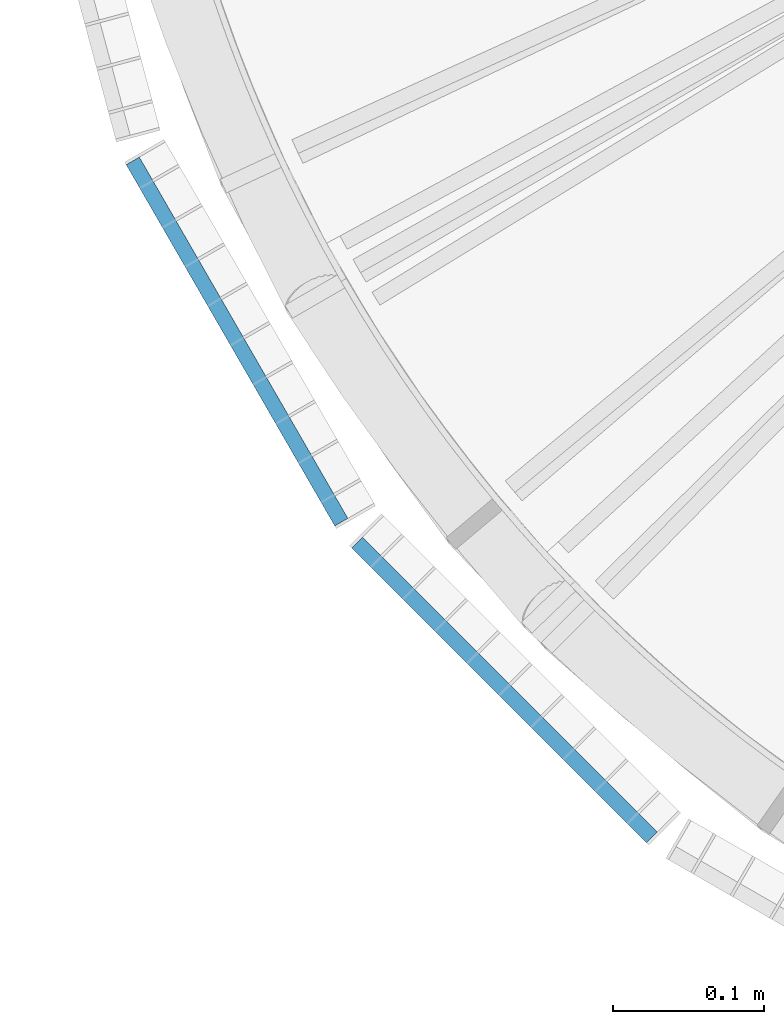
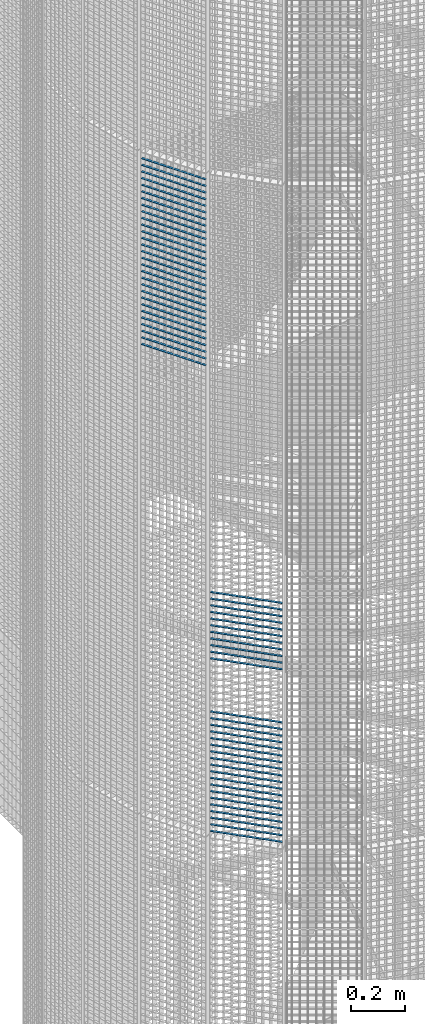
# One storey, part 119 of 1148: 59 beams, 2 elements without a shape of their own.
"""IFC2X3 building model written with IfcOpenShell, lengths in millimetres."""

from ifc_helpers import new_model, si_unit, frame, origin_with_axes, origin_2d_with_axis, place, context, subcontext, project, spatial, rectangle, extrude, material, type_object, element, aggregate, save


model = new_model("IFC2X3")

# Units and contexts
model_context = context("Model", 3, precision=1e-05, world=origin_with_axes())
body_context = subcontext(model_context, "Body", "Model", "MODEL_VIEW")
ifc_project = project(units=[si_unit("LENGTHUNIT", "METRE", prefix="MILLI"), si_unit("AREAUNIT", "SQUARE_METRE"), si_unit("VOLUMEUNIT", "CUBIC_METRE"), si_unit("MASSUNIT", "GRAM", prefix="KILO"), si_unit("TIMEUNIT", "SECOND"), si_unit("PLANEANGLEUNIT", "RADIAN"), si_unit("SOLIDANGLEUNIT", "STERADIAN"), si_unit("THERMODYNAMICTEMPERATUREUNIT", "DEGREE_CELSIUS"), si_unit("LUMINOUSINTENSITYUNIT", "LUMEN")], contexts=[model_context])

# Site, building, storey
site_placement = place(None, origin_with_axes())
site = spatial("IfcSite", under=ifc_project, at=site_placement, Name="Undefined", CompositionType="ELEMENT")
building_placement = place(site_placement, origin_with_axes())
building = spatial("IfcBuilding", under=site, at=building_placement, Name="Undefined", CompositionType="ELEMENT")
storey_placement = place(building_placement, origin_with_axes())
storey = spatial("IfcBuildingStorey", under=building, at=storey_placement, Name="Undefined", CompositionType="ELEMENT", Elevation=0.0)

# Assembly, beams
assembly_1_placement = place(storey_placement, origin_with_axes())
assembly_1 = element("IfcElementAssembly", 1, at=assembly_1_placement, inside=storey, Name="BORDURE", AssemblyPlace="NOTDEFINED", PredefinedType="NOTDEFINED")
ifc_material = material(Name="STEEL/S235JR")
beam_type = type_object("IfcBeamType", Name="PL2*10", PredefinedType="NOTDEFINED")
beam_1_placement = place(assembly_1_placement, frame((-884.927168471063, -689.771348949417, 6810.0), z_axis=(-0.70710678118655, -0.707106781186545, 0.0), x_axis=(0.707106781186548, -0.707106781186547, 0.0)))
beam_1 = element("IfcBeam", 2, at=beam_1_placement, type_object=beam_type, material=ifc_material, Name="ENTRETOISE", context=body_context, shape_type="SweptSolid", body=[
    extrude(rectangle(XDim=2.0, YDim=10.0, at=origin_2d_with_axis()), frame((275.999999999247, 9.09494701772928e-13, 1.53210777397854e-14), z_axis=(-1.0, 0.0, 0.0), x_axis=(0.0, -1.0, 0.0)), (0.0, 0.0, 1.0), 276.0),
])
beam_2_placement = place(assembly_1_placement, frame((-884.927168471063, -689.771348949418, 6570.0), z_axis=(-0.70710678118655, -0.707106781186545, 0.0), x_axis=(0.707106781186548, -0.707106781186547, 0.0)))
beam_2 = element("IfcBeam", 3, at=beam_2_placement, type_object=beam_type, material=ifc_material, Name="ENTRETOISE", context=body_context, shape_type="SweptSolid", body=[
    extrude(rectangle(XDim=2.0, YDim=10.0, at=origin_2d_with_axis()), frame((275.999999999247, 9.09494701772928e-13, 1.53210777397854e-14), z_axis=(-1.0, 0.0, 0.0), x_axis=(0.0, -1.0, 0.0)), (0.0, 0.0, 1.0), 276.0),
])
beam_3_placement = place(assembly_1_placement, frame((-884.927168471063, -689.771348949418, 6540.0), z_axis=(-0.70710678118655, -0.707106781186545, 0.0), x_axis=(0.707106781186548, -0.707106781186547, 0.0)))
beam_3 = element("IfcBeam", 4, at=beam_3_placement, type_object=beam_type, material=ifc_material, Name="ENTRETOISE", context=body_context, shape_type="SweptSolid", body=[
    extrude(rectangle(XDim=2.0, YDim=10.0, at=origin_2d_with_axis()), frame((275.999999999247, 9.09494701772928e-13, 1.53210777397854e-14), z_axis=(-1.0, 0.0, 0.0), x_axis=(0.0, -1.0, 0.0)), (0.0, 0.0, 1.0), 276.0),
])
beam_4_placement = place(assembly_1_placement, frame((-884.927168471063, -689.771348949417, 6840.0), z_axis=(-0.70710678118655, -0.707106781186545, 0.0), x_axis=(0.707106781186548, -0.707106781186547, 0.0)))
beam_4 = element("IfcBeam", 5, at=beam_4_placement, type_object=beam_type, material=ifc_material, Name="ENTRETOISE", context=body_context, shape_type="SweptSolid", body=[
    extrude(rectangle(XDim=2.0, YDim=10.0, at=origin_2d_with_axis()), frame((275.999999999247, 9.09494701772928e-13, 1.53210777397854e-14), z_axis=(-1.0, 0.0, 0.0), x_axis=(0.0, -1.0, 0.0)), (0.0, 0.0, 1.0), 276.0),
])
beam_5_placement = place(assembly_1_placement, frame((-884.927168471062, -689.771348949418, 6510.0), z_axis=(-0.70710678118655, -0.707106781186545, 0.0), x_axis=(0.707106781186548, -0.707106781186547, 0.0)))
beam_5 = element("IfcBeam", 6, at=beam_5_placement, type_object=beam_type, material=ifc_material, Name="ENTRETOISE", context=body_context, shape_type="SweptSolid", body=[
    extrude(rectangle(XDim=2.0, YDim=10.0, at=origin_2d_with_axis()), frame((275.999999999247, 9.09494701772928e-13, 1.53210777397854e-14), z_axis=(-1.0, 0.0, 0.0), x_axis=(0.0, -1.0, 0.0)), (0.0, 0.0, 1.0), 276.0),
])
beam_6_placement = place(assembly_1_placement, frame((-884.927168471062, -689.771348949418, 6480.0), z_axis=(-0.70710678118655, -0.707106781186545, 0.0), x_axis=(0.707106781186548, -0.707106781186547, 0.0)))
beam_6 = element("IfcBeam", 7, at=beam_6_placement, type_object=beam_type, material=ifc_material, Name="ENTRETOISE", context=body_context, shape_type="SweptSolid", body=[
    extrude(rectangle(XDim=2.0, YDim=10.0, at=origin_2d_with_axis()), frame((275.999999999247, 9.09494701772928e-13, 1.53210777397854e-14), z_axis=(-1.0, 0.0, 0.0), x_axis=(0.0, -1.0, 0.0)), (0.0, 0.0, 1.0), 276.0),
])
beam_7_placement = place(assembly_1_placement, frame((-884.927168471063, -689.771348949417, 6870.0), z_axis=(-0.70710678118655, -0.707106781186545, 0.0), x_axis=(0.707106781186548, -0.707106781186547, 0.0)))
beam_7 = element("IfcBeam", 8, at=beam_7_placement, type_object=beam_type, material=ifc_material, Name="ENTRETOISE", context=body_context, shape_type="SweptSolid", body=[
    extrude(rectangle(XDim=2.0, YDim=10.0, at=origin_2d_with_axis()), frame((275.999999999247, 9.09494701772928e-13, 1.53210777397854e-14), z_axis=(-1.0, 0.0, 0.0), x_axis=(0.0, -1.0, 0.0)), (0.0, 0.0, 1.0), 276.0),
])
beam_8_placement = place(assembly_1_placement, frame((-884.927168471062, -689.771348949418, 6450.0), z_axis=(-0.70710678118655, -0.707106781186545, 0.0), x_axis=(0.707106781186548, -0.707106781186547, 0.0)))
beam_8 = element("IfcBeam", 9, at=beam_8_placement, type_object=beam_type, material=ifc_material, Name="ENTRETOISE", context=body_context, shape_type="SweptSolid", body=[
    extrude(rectangle(XDim=2.0, YDim=10.0, at=origin_2d_with_axis()), frame((275.999999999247, 9.09494701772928e-13, 1.53210777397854e-14), z_axis=(-1.0, 0.0, 0.0), x_axis=(0.0, -1.0, 0.0)), (0.0, 0.0, 1.0), 276.0),
])
beam_9_placement = place(assembly_1_placement, frame((-884.927168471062, -689.771348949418, 6420.0), z_axis=(-0.70710678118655, -0.707106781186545, 0.0), x_axis=(0.707106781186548, -0.707106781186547, 0.0)))
beam_9 = element("IfcBeam", 10, at=beam_9_placement, type_object=beam_type, material=ifc_material, Name="ENTRETOISE", context=body_context, shape_type="SweptSolid", body=[
    extrude(rectangle(XDim=2.0, YDim=10.0, at=origin_2d_with_axis()), frame((275.999999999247, 9.09494701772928e-13, 1.53210777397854e-14), z_axis=(-1.0, 0.0, 0.0), x_axis=(0.0, -1.0, 0.0)), (0.0, 0.0, 1.0), 276.0),
])
beam_10_placement = place(assembly_1_placement, frame((-884.927168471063, -689.771348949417, 6900.0), z_axis=(-0.70710678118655, -0.707106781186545, 0.0), x_axis=(0.707106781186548, -0.707106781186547, 0.0)))
beam_10 = element("IfcBeam", 11, at=beam_10_placement, type_object=beam_type, material=ifc_material, Name="ENTRETOISE", context=body_context, shape_type="SweptSolid", body=[
    extrude(rectangle(XDim=2.0, YDim=10.0, at=origin_2d_with_axis()), frame((275.999999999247, 9.09494701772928e-13, 1.53210777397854e-14), z_axis=(-1.0, 0.0, 0.0), x_axis=(0.0, -1.0, 0.0)), (0.0, 0.0, 1.0), 276.0),
])
beam_11_placement = place(assembly_1_placement, frame((-884.927168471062, -689.771348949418, 6390.0), z_axis=(-0.70710678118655, -0.707106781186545, 0.0), x_axis=(0.707106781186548, -0.707106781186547, 0.0)))
beam_11 = element("IfcBeam", 12, at=beam_11_placement, type_object=beam_type, material=ifc_material, Name="ENTRETOISE", context=body_context, shape_type="SweptSolid", body=[
    extrude(rectangle(XDim=2.0, YDim=10.0, at=origin_2d_with_axis()), frame((275.999999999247, 9.09494701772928e-13, 1.53210777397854e-14), z_axis=(-1.0, 0.0, 0.0), x_axis=(0.0, -1.0, 0.0)), (0.0, 0.0, 1.0), 276.0),
])
beam_12_placement = place(assembly_1_placement, frame((-884.927168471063, -689.771348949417, 6930.0), z_axis=(-0.70710678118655, -0.707106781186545, 0.0), x_axis=(0.707106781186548, -0.707106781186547, 0.0)))
beam_12 = element("IfcBeam", 13, at=beam_12_placement, type_object=beam_type, material=ifc_material, Name="ENTRETOISE", context=body_context, shape_type="SweptSolid", body=[
    extrude(rectangle(XDim=2.0, YDim=10.0, at=origin_2d_with_axis()), frame((275.999999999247, 9.09494701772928e-13, 1.53210777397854e-14), z_axis=(-1.0, 0.0, 0.0), x_axis=(0.0, -1.0, 0.0)), (0.0, 0.0, 1.0), 276.0),
])
beam_13_placement = place(assembly_1_placement, frame((-884.927168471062, -689.771348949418, 6360.0), z_axis=(-0.70710678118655, -0.707106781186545, 0.0), x_axis=(0.707106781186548, -0.707106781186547, 0.0)))
beam_13 = element("IfcBeam", 14, at=beam_13_placement, type_object=beam_type, material=ifc_material, Name="ENTRETOISE", context=body_context, shape_type="SweptSolid", body=[
    extrude(rectangle(XDim=2.0, YDim=10.0, at=origin_2d_with_axis()), frame((275.999999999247, 9.09494701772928e-13, 1.53210777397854e-14), z_axis=(-1.0, 0.0, 0.0), x_axis=(0.0, -1.0, 0.0)), (0.0, 0.0, 1.0), 276.0),
])
beam_14_placement = place(assembly_1_placement, frame((-884.927168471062, -689.771348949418, 6330.0), z_axis=(-0.70710678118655, -0.707106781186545, 0.0), x_axis=(0.707106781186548, -0.707106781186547, 0.0)))
beam_14 = element("IfcBeam", 15, at=beam_14_placement, type_object=beam_type, material=ifc_material, Name="ENTRETOISE", context=body_context, shape_type="SweptSolid", body=[
    extrude(rectangle(XDim=2.0, YDim=10.0, at=origin_2d_with_axis()), frame((275.999999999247, 9.09494701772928e-13, 1.53210777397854e-14), z_axis=(-1.0, 0.0, 0.0), x_axis=(0.0, -1.0, 0.0)), (0.0, 0.0, 1.0), 276.0),
])
beam_15_placement = place(assembly_1_placement, frame((-884.927168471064, -689.771348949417, 6960.0), z_axis=(-0.70710678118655, -0.707106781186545, 0.0), x_axis=(0.707106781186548, -0.707106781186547, 0.0)))
beam_15 = element("IfcBeam", 16, at=beam_15_placement, type_object=beam_type, material=ifc_material, Name="ENTRETOISE", context=body_context, shape_type="SweptSolid", body=[
    extrude(rectangle(XDim=2.0, YDim=10.0, at=origin_2d_with_axis()), frame((275.999999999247, 9.09494701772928e-13, 1.53210777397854e-14), z_axis=(-1.0, 0.0, 0.0), x_axis=(0.0, -1.0, 0.0)), (0.0, 0.0, 1.0), 276.0),
])
beam_16_placement = place(assembly_1_placement, frame((-884.927168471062, -689.771348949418, 6300.0), z_axis=(-0.70710678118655, -0.707106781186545, 0.0), x_axis=(0.707106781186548, -0.707106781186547, 0.0)))
beam_16 = element("IfcBeam", 17, at=beam_16_placement, type_object=beam_type, material=ifc_material, Name="ENTRETOISE", context=body_context, shape_type="SweptSolid", body=[
    extrude(rectangle(XDim=2.0, YDim=10.0, at=origin_2d_with_axis()), frame((275.999999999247, 9.09494701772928e-13, 1.53210777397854e-14), z_axis=(-1.0, 0.0, 0.0), x_axis=(0.0, -1.0, 0.0)), (0.0, 0.0, 1.0), 276.0),
])
beam_17_placement = place(assembly_1_placement, frame((-884.927168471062, -689.771348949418, 6270.0), z_axis=(-0.70710678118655, -0.707106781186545, 0.0), x_axis=(0.707106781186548, -0.707106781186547, 0.0)))
beam_17 = element("IfcBeam", 18, at=beam_17_placement, type_object=beam_type, material=ifc_material, Name="ENTRETOISE", context=body_context, shape_type="SweptSolid", body=[
    extrude(rectangle(XDim=2.0, YDim=10.0, at=origin_2d_with_axis()), frame((275.999999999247, 9.09494701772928e-13, 1.53210777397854e-14), z_axis=(-1.0, 0.0, 0.0), x_axis=(0.0, -1.0, 0.0)), (0.0, 0.0, 1.0), 276.0),
])
beam_18_placement = place(assembly_1_placement, frame((-884.927168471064, -689.771348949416, 6990.0), z_axis=(-0.70710678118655, -0.707106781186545, 0.0), x_axis=(0.707106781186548, -0.707106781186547, 0.0)))
beam_18 = element("IfcBeam", 19, at=beam_18_placement, type_object=beam_type, material=ifc_material, Name="ENTRETOISE", context=body_context, shape_type="SweptSolid", body=[
    extrude(rectangle(XDim=2.0, YDim=10.0, at=origin_2d_with_axis()), frame((275.999999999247, 9.09494701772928e-13, 1.53210777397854e-14), z_axis=(-1.0, 0.0, 0.0), x_axis=(0.0, -1.0, 0.0)), (0.0, 0.0, 1.0), 276.0),
])
beam_19_placement = place(assembly_1_placement, frame((-884.927168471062, -689.771348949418, 6240.0), z_axis=(-0.70710678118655, -0.707106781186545, 0.0), x_axis=(0.707106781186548, -0.707106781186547, 0.0)))
beam_19 = element("IfcBeam", 20, at=beam_19_placement, type_object=beam_type, material=ifc_material, Name="ENTRETOISE", context=body_context, shape_type="SweptSolid", body=[
    extrude(rectangle(XDim=2.0, YDim=10.0, at=origin_2d_with_axis()), frame((275.999999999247, 9.09494701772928e-13, 1.53210777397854e-14), z_axis=(-1.0, 0.0, 0.0), x_axis=(0.0, -1.0, 0.0)), (0.0, 0.0, 1.0), 276.0),
])
beam_20_placement = place(assembly_1_placement, frame((-884.927168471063, -689.771348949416, 7020.0), z_axis=(-0.70710678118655, -0.707106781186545, 0.0), x_axis=(0.707106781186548, -0.707106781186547, 0.0)))
beam_20 = element("IfcBeam", 21, at=beam_20_placement, type_object=beam_type, material=ifc_material, Name="ENTRETOISE", context=body_context, shape_type="SweptSolid", body=[
    extrude(rectangle(XDim=2.0, YDim=10.0, at=origin_2d_with_axis()), frame((275.999999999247, 9.09494701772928e-13, 1.53210777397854e-14), z_axis=(-1.0, 0.0, 0.0), x_axis=(0.0, -1.0, 0.0)), (0.0, 0.0, 1.0), 276.0),
])
beam_21_placement = place(assembly_1_placement, frame((-884.927168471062, -689.771348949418, 6210.0), z_axis=(-0.70710678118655, -0.707106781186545, 0.0), x_axis=(0.707106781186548, -0.707106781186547, 0.0)))
beam_21 = element("IfcBeam", 22, at=beam_21_placement, type_object=beam_type, material=ifc_material, Name="ENTRETOISE", context=body_context, shape_type="SweptSolid", body=[
    extrude(rectangle(XDim=2.0, YDim=10.0, at=origin_2d_with_axis()), frame((275.999999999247, 9.09494701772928e-13, 1.53210777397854e-14), z_axis=(-1.0, 0.0, 0.0), x_axis=(0.0, -1.0, 0.0)), (0.0, 0.0, 1.0), 276.0),
])
beam_22_placement = place(assembly_1_placement, frame((-884.927168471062, -689.771348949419, 6180.0), z_axis=(-0.70710678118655, -0.707106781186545, 0.0), x_axis=(0.707106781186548, -0.707106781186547, 0.0)))
beam_22 = element("IfcBeam", 23, at=beam_22_placement, type_object=beam_type, material=ifc_material, Name="ENTRETOISE", context=body_context, shape_type="SweptSolid", body=[
    extrude(rectangle(XDim=2.0, YDim=10.0, at=origin_2d_with_axis()), frame((275.999999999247, 9.09494701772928e-13, 1.53210777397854e-14), z_axis=(-1.0, 0.0, 0.0), x_axis=(0.0, -1.0, 0.0)), (0.0, 0.0, 1.0), 276.0),
])
beam_23_placement = place(assembly_1_placement, frame((-884.927168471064, -689.771348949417, 7050.0), z_axis=(-0.70710678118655, -0.707106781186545, 0.0), x_axis=(0.707106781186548, -0.707106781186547, 0.0)))
beam_23 = element("IfcBeam", 24, at=beam_23_placement, type_object=beam_type, material=ifc_material, Name="ENTRETOISE", context=body_context, shape_type="SweptSolid", body=[
    extrude(rectangle(XDim=2.0, YDim=10.0, at=origin_2d_with_axis()), frame((275.999999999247, 9.09494701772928e-13, 1.53210777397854e-14), z_axis=(-1.0, 0.0, 0.0), x_axis=(0.0, -1.0, 0.0)), (0.0, 0.0, 1.0), 276.0),
])
beam_24_placement = place(assembly_1_placement, frame((-884.927168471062, -689.771348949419, 6150.0), z_axis=(-0.70710678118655, -0.707106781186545, 0.0), x_axis=(0.707106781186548, -0.707106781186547, 0.0)))
beam_24 = element("IfcBeam", 25, at=beam_24_placement, type_object=beam_type, material=ifc_material, Name="ENTRETOISE", context=body_context, shape_type="SweptSolid", body=[
    extrude(rectangle(XDim=2.0, YDim=10.0, at=origin_2d_with_axis()), frame((275.999999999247, 9.09494701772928e-13, 1.53210777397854e-14), z_axis=(-1.0, 0.0, 0.0), x_axis=(0.0, -1.0, 0.0)), (0.0, 0.0, 1.0), 276.0),
])
beam_25_placement = place(assembly_1_placement, frame((-884.927168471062, -689.771348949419, 6120.0), z_axis=(-0.70710678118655, -0.707106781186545, 0.0), x_axis=(0.707106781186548, -0.707106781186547, 0.0)))
beam_25 = element("IfcBeam", 26, at=beam_25_placement, type_object=beam_type, material=ifc_material, Name="ENTRETOISE", context=body_context, shape_type="SweptSolid", body=[
    extrude(rectangle(XDim=2.0, YDim=10.0, at=origin_2d_with_axis()), frame((275.999999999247, 9.09494701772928e-13, 1.53210777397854e-14), z_axis=(-1.0, 0.0, 0.0), x_axis=(0.0, -1.0, 0.0)), (0.0, 0.0, 1.0), 276.0),
])
beam_26_placement = place(assembly_1_placement, frame((-884.927168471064, -689.771348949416, 7080.0), z_axis=(-0.70710678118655, -0.707106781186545, 0.0), x_axis=(0.707106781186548, -0.707106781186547, 0.0)))
beam_26 = element("IfcBeam", 27, at=beam_26_placement, type_object=beam_type, material=ifc_material, Name="ENTRETOISE", context=body_context, shape_type="SweptSolid", body=[
    extrude(rectangle(XDim=2.0, YDim=10.0, at=origin_2d_with_axis()), frame((275.999999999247, 9.09494701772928e-13, 1.53210777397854e-14), z_axis=(-1.0, 0.0, 0.0), x_axis=(0.0, -1.0, 0.0)), (0.0, 0.0, 1.0), 276.0),
])
beam_27_placement = place(assembly_1_placement, frame((-884.927168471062, -689.771348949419, 6090.0), z_axis=(-0.70710678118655, -0.707106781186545, 0.0), x_axis=(0.707106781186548, -0.707106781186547, 0.0)))
beam_27 = element("IfcBeam", 28, at=beam_27_placement, type_object=beam_type, material=ifc_material, Name="ENTRETOISE", context=body_context, shape_type="SweptSolid", body=[
    extrude(rectangle(XDim=2.0, YDim=10.0, at=origin_2d_with_axis()), frame((275.999999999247, 9.09494701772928e-13, 1.53210777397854e-14), z_axis=(-1.0, 0.0, 0.0), x_axis=(0.0, -1.0, 0.0)), (0.0, 0.0, 1.0), 276.0),
])
beam_28_placement = place(assembly_1_placement, frame((-884.927168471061, -689.771348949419, 6060.0), z_axis=(-0.70710678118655, -0.707106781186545, 0.0), x_axis=(0.707106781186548, -0.707106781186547, 0.0)))
beam_28 = element("IfcBeam", 29, at=beam_28_placement, type_object=beam_type, material=ifc_material, Name="ENTRETOISE", context=body_context, shape_type="SweptSolid", body=[
    extrude(rectangle(XDim=2.0, YDim=10.0, at=origin_2d_with_axis()), frame((275.999999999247, 9.09494701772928e-13, 1.53210777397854e-14), z_axis=(-1.0, 0.0, 0.0), x_axis=(0.0, -1.0, 0.0)), (0.0, 0.0, 1.0), 276.0),
])
beam_29_placement = place(assembly_1_placement, frame((-884.927168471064, -689.771348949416, 7110.0), z_axis=(-0.70710678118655, -0.707106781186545, 0.0), x_axis=(0.707106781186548, -0.707106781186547, 0.0)))
beam_29 = element("IfcBeam", 30, at=beam_29_placement, type_object=beam_type, material=ifc_material, Name="ENTRETOISE", context=body_context, shape_type="SweptSolid", body=[
    extrude(rectangle(XDim=2.0, YDim=10.0, at=origin_2d_with_axis()), frame((275.999999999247, 9.09494701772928e-13, 1.53210777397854e-14), z_axis=(-1.0, 0.0, 0.0), x_axis=(0.0, -1.0, 0.0)), (0.0, 0.0, 1.0), 276.0),
])
beam_30_placement = place(assembly_1_placement, frame((-884.92716847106, -689.771348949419, 6030.0), z_axis=(-0.70710678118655, -0.707106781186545, 0.0), x_axis=(0.707106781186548, -0.707106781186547, 0.0)))
beam_30 = element("IfcBeam", 31, at=beam_30_placement, type_object=beam_type, material=ifc_material, Name="ENTRETOISE", context=body_context, shape_type="SweptSolid", body=[
    extrude(rectangle(XDim=2.0, YDim=10.0, at=origin_2d_with_axis()), frame((275.999999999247, 9.09494701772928e-13, 1.53210777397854e-14), z_axis=(-1.0, 0.0, 0.0), x_axis=(0.0, -1.0, 0.0)), (0.0, 0.0, 1.0), 276.0),
])
aggregate(assembly_1, [beam_1, beam_2, beam_3, beam_4, beam_5, beam_6, beam_7, beam_8, beam_9, beam_10, beam_11, beam_12, beam_13, beam_14, beam_15, beam_16, beam_17, beam_18, beam_19, beam_20, beam_21, beam_22, beam_23, beam_24, beam_25, beam_26, beam_27, beam_28, beam_29, beam_30])

assembly_2_placement = place(storey_placement, origin_with_axes())
assembly_2 = element("IfcElementAssembly", 32, at=assembly_2_placement, inside=storey, Name="BORDURE", AssemblyPlace="NOTDEFINED", PredefinedType="NOTDEFINED")
beam_31_placement = place(assembly_2_placement, frame((-1033.29996828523, -437.231955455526, 8970.0), z_axis=(-0.866025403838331, -0.499999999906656, 0.0), x_axis=(0.499999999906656, -0.866025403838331, 0.0)))
beam_31 = element("IfcBeam", 33, at=beam_31_placement, type_object=beam_type, material=ifc_material, Name="ENTRETOISE", context=body_context, shape_type="SweptSolid", body=[
    extrude(rectangle(XDim=2.0, YDim=10.0, at=origin_2d_with_axis()), frame((275.999999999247, 9.09494701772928e-13, 1.53210777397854e-14), z_axis=(-1.0, 0.0, 0.0), x_axis=(0.0, -1.0, 0.0)), (0.0, 0.0, 1.0), 276.0),
])
beam_32_placement = place(assembly_2_placement, frame((-1033.29996828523, -437.231955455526, 8940.0), z_axis=(-0.866025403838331, -0.499999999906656, 0.0), x_axis=(0.499999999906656, -0.866025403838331, 0.0)))
beam_32 = element("IfcBeam", 34, at=beam_32_placement, type_object=beam_type, material=ifc_material, Name="ENTRETOISE", context=body_context, shape_type="SweptSolid", body=[
    extrude(rectangle(XDim=2.0, YDim=10.0, at=origin_2d_with_axis()), frame((275.999999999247, 9.09494701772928e-13, 1.53210777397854e-14), z_axis=(-1.0, 0.0, 0.0), x_axis=(0.0, -1.0, 0.0)), (0.0, 0.0, 1.0), 276.0),
])
beam_33_placement = place(assembly_2_placement, frame((-1033.29996828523, -437.231955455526, 8910.0), z_axis=(-0.866025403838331, -0.499999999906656, 0.0), x_axis=(0.499999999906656, -0.866025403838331, 0.0)))
beam_33 = element("IfcBeam", 35, at=beam_33_placement, type_object=beam_type, material=ifc_material, Name="ENTRETOISE", context=body_context, shape_type="SweptSolid", body=[
    extrude(rectangle(XDim=2.0, YDim=10.0, at=origin_2d_with_axis()), frame((275.999999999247, 9.09494701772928e-13, 1.53210777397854e-14), z_axis=(-1.0, 0.0, 0.0), x_axis=(0.0, -1.0, 0.0)), (0.0, 0.0, 1.0), 276.0),
])
beam_34_placement = place(assembly_2_placement, frame((-1033.29996828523, -437.231955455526, 8880.0), z_axis=(-0.866025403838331, -0.499999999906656, 0.0), x_axis=(0.499999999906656, -0.866025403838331, 0.0)))
beam_34 = element("IfcBeam", 36, at=beam_34_placement, type_object=beam_type, material=ifc_material, Name="ENTRETOISE", context=body_context, shape_type="SweptSolid", body=[
    extrude(rectangle(XDim=2.0, YDim=10.0, at=origin_2d_with_axis()), frame((275.999999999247, 9.09494701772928e-13, 1.53210777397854e-14), z_axis=(-1.0, 0.0, 0.0), x_axis=(0.0, -1.0, 0.0)), (0.0, 0.0, 1.0), 276.0),
])
beam_35_placement = place(assembly_2_placement, frame((-1033.29996828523, -437.231955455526, 8850.0), z_axis=(-0.866025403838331, -0.499999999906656, 0.0), x_axis=(0.499999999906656, -0.866025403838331, 0.0)))
beam_35 = element("IfcBeam", 37, at=beam_35_placement, type_object=beam_type, material=ifc_material, Name="ENTRETOISE", context=body_context, shape_type="SweptSolid", body=[
    extrude(rectangle(XDim=2.0, YDim=10.0, at=origin_2d_with_axis()), frame((275.999999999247, 9.09494701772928e-13, 1.53210777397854e-14), z_axis=(-1.0, 0.0, 0.0), x_axis=(0.0, -1.0, 0.0)), (0.0, 0.0, 1.0), 276.0),
])
beam_36_placement = place(assembly_2_placement, frame((-1033.29996828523, -437.231955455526, 8820.0), z_axis=(-0.866025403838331, -0.499999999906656, 0.0), x_axis=(0.499999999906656, -0.866025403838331, 0.0)))
beam_36 = element("IfcBeam", 38, at=beam_36_placement, type_object=beam_type, material=ifc_material, Name="ENTRETOISE", context=body_context, shape_type="SweptSolid", body=[
    extrude(rectangle(XDim=2.0, YDim=10.0, at=origin_2d_with_axis()), frame((275.999999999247, 9.09494701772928e-13, 1.53210777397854e-14), z_axis=(-1.0, 0.0, 0.0), x_axis=(0.0, -1.0, 0.0)), (0.0, 0.0, 1.0), 276.0),
])
beam_37_placement = place(assembly_2_placement, frame((-1033.29996828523, -437.231955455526, 8790.0), z_axis=(-0.866025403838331, -0.499999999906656, 0.0), x_axis=(0.499999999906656, -0.866025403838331, 0.0)))
beam_37 = element("IfcBeam", 39, at=beam_37_placement, type_object=beam_type, material=ifc_material, Name="ENTRETOISE", context=body_context, shape_type="SweptSolid", body=[
    extrude(rectangle(XDim=2.0, YDim=10.0, at=origin_2d_with_axis()), frame((275.999999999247, 9.09494701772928e-13, 1.53210777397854e-14), z_axis=(-1.0, 0.0, 0.0), x_axis=(0.0, -1.0, 0.0)), (0.0, 0.0, 1.0), 276.0),
])
beam_38_placement = place(assembly_2_placement, frame((-1033.29996828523, -437.231955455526, 8760.0), z_axis=(-0.866025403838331, -0.499999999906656, 0.0), x_axis=(0.499999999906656, -0.866025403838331, 0.0)))
beam_38 = element("IfcBeam", 40, at=beam_38_placement, type_object=beam_type, material=ifc_material, Name="ENTRETOISE", context=body_context, shape_type="SweptSolid", body=[
    extrude(rectangle(XDim=2.0, YDim=10.0, at=origin_2d_with_axis()), frame((275.999999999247, 9.09494701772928e-13, 1.53210777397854e-14), z_axis=(-1.0, 0.0, 0.0), x_axis=(0.0, -1.0, 0.0)), (0.0, 0.0, 1.0), 276.0),
])
beam_39_placement = place(assembly_2_placement, frame((-1033.29996828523, -437.231955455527, 8730.0), z_axis=(-0.866025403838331, -0.499999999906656, 0.0), x_axis=(0.499999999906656, -0.866025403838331, 0.0)))
beam_39 = element("IfcBeam", 41, at=beam_39_placement, type_object=beam_type, material=ifc_material, Name="ENTRETOISE", context=body_context, shape_type="SweptSolid", body=[
    extrude(rectangle(XDim=2.0, YDim=10.0, at=origin_2d_with_axis()), frame((275.999999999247, 9.09494701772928e-13, 1.53210777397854e-14), z_axis=(-1.0, 0.0, 0.0), x_axis=(0.0, -1.0, 0.0)), (0.0, 0.0, 1.0), 276.0),
])
beam_40_placement = place(assembly_2_placement, frame((-1033.29996828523, -437.231955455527, 8700.0), z_axis=(-0.866025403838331, -0.499999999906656, 0.0), x_axis=(0.499999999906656, -0.866025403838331, 0.0)))
beam_40 = element("IfcBeam", 42, at=beam_40_placement, type_object=beam_type, material=ifc_material, Name="ENTRETOISE", context=body_context, shape_type="SweptSolid", body=[
    extrude(rectangle(XDim=2.0, YDim=10.0, at=origin_2d_with_axis()), frame((275.999999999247, 9.09494701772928e-13, 1.53210777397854e-14), z_axis=(-1.0, 0.0, 0.0), x_axis=(0.0, -1.0, 0.0)), (0.0, 0.0, 1.0), 276.0),
])
beam_41_placement = place(assembly_2_placement, frame((-1033.29996828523, -437.231955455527, 8670.0), z_axis=(-0.866025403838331, -0.499999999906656, 0.0), x_axis=(0.499999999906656, -0.866025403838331, 0.0)))
beam_41 = element("IfcBeam", 43, at=beam_41_placement, type_object=beam_type, material=ifc_material, Name="ENTRETOISE", context=body_context, shape_type="SweptSolid", body=[
    extrude(rectangle(XDim=2.0, YDim=10.0, at=origin_2d_with_axis()), frame((275.999999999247, 9.09494701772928e-13, 1.53210777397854e-14), z_axis=(-1.0, 0.0, 0.0), x_axis=(0.0, -1.0, 0.0)), (0.0, 0.0, 1.0), 276.0),
])
beam_42_placement = place(assembly_2_placement, frame((-1033.29996828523, -437.231955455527, 8640.0), z_axis=(-0.866025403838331, -0.499999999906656, 0.0), x_axis=(0.499999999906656, -0.866025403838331, 0.0)))
beam_42 = element("IfcBeam", 44, at=beam_42_placement, type_object=beam_type, material=ifc_material, Name="ENTRETOISE", context=body_context, shape_type="SweptSolid", body=[
    extrude(rectangle(XDim=2.0, YDim=10.0, at=origin_2d_with_axis()), frame((275.999999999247, 9.09494701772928e-13, 1.53210777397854e-14), z_axis=(-1.0, 0.0, 0.0), x_axis=(0.0, -1.0, 0.0)), (0.0, 0.0, 1.0), 276.0),
])
beam_43_placement = place(assembly_2_placement, frame((-1033.29996828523, -437.231955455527, 8610.0), z_axis=(-0.866025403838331, -0.499999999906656, 0.0), x_axis=(0.499999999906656, -0.866025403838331, 0.0)))
beam_43 = element("IfcBeam", 45, at=beam_43_placement, type_object=beam_type, material=ifc_material, Name="ENTRETOISE", context=body_context, shape_type="SweptSolid", body=[
    extrude(rectangle(XDim=2.0, YDim=10.0, at=origin_2d_with_axis()), frame((275.999999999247, 9.09494701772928e-13, 1.53210777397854e-14), z_axis=(-1.0, 0.0, 0.0), x_axis=(0.0, -1.0, 0.0)), (0.0, 0.0, 1.0), 276.0),
])
beam_44_placement = place(assembly_2_placement, frame((-1033.29996828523, -437.231955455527, 8580.0), z_axis=(-0.866025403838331, -0.499999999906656, 0.0), x_axis=(0.499999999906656, -0.866025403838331, 0.0)))
beam_44 = element("IfcBeam", 46, at=beam_44_placement, type_object=beam_type, material=ifc_material, Name="ENTRETOISE", context=body_context, shape_type="SweptSolid", body=[
    extrude(rectangle(XDim=2.0, YDim=10.0, at=origin_2d_with_axis()), frame((275.999999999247, 9.09494701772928e-13, 1.53210777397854e-14), z_axis=(-1.0, 0.0, 0.0), x_axis=(0.0, -1.0, 0.0)), (0.0, 0.0, 1.0), 276.0),
])
beam_45_placement = place(assembly_2_placement, frame((-1033.29996828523, -437.231955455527, 8550.0), z_axis=(-0.866025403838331, -0.499999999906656, 0.0), x_axis=(0.499999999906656, -0.866025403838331, 0.0)))
beam_45 = element("IfcBeam", 47, at=beam_45_placement, type_object=beam_type, material=ifc_material, Name="ENTRETOISE", context=body_context, shape_type="SweptSolid", body=[
    extrude(rectangle(XDim=2.0, YDim=10.0, at=origin_2d_with_axis()), frame((275.999999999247, 9.09494701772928e-13, 1.53210777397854e-14), z_axis=(-1.0, 0.0, 0.0), x_axis=(0.0, -1.0, 0.0)), (0.0, 0.0, 1.0), 276.0),
])
beam_46_placement = place(assembly_2_placement, frame((-1033.29996828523, -437.231955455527, 8520.0), z_axis=(-0.866025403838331, -0.499999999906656, 0.0), x_axis=(0.499999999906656, -0.866025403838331, 0.0)))
beam_46 = element("IfcBeam", 48, at=beam_46_placement, type_object=beam_type, material=ifc_material, Name="ENTRETOISE", context=body_context, shape_type="SweptSolid", body=[
    extrude(rectangle(XDim=2.0, YDim=10.0, at=origin_2d_with_axis()), frame((275.999999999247, 9.09494701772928e-13, 1.53210777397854e-14), z_axis=(-1.0, 0.0, 0.0), x_axis=(0.0, -1.0, 0.0)), (0.0, 0.0, 1.0), 276.0),
])
beam_47_placement = place(assembly_2_placement, frame((-1033.29996828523, -437.231955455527, 8490.0), z_axis=(-0.866025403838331, -0.499999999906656, 0.0), x_axis=(0.499999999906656, -0.866025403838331, 0.0)))
beam_47 = element("IfcBeam", 49, at=beam_47_placement, type_object=beam_type, material=ifc_material, Name="ENTRETOISE", context=body_context, shape_type="SweptSolid", body=[
    extrude(rectangle(XDim=2.0, YDim=10.0, at=origin_2d_with_axis()), frame((275.999999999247, 9.09494701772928e-13, 1.53210777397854e-14), z_axis=(-1.0, 0.0, 0.0), x_axis=(0.0, -1.0, 0.0)), (0.0, 0.0, 1.0), 276.0),
])
beam_48_placement = place(assembly_2_placement, frame((-1033.29996828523, -437.231955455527, 8460.0), z_axis=(-0.866025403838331, -0.499999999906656, 0.0), x_axis=(0.499999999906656, -0.866025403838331, 0.0)))
beam_48 = element("IfcBeam", 50, at=beam_48_placement, type_object=beam_type, material=ifc_material, Name="ENTRETOISE", context=body_context, shape_type="SweptSolid", body=[
    extrude(rectangle(XDim=2.0, YDim=10.0, at=origin_2d_with_axis()), frame((275.999999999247, 9.09494701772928e-13, 1.53210777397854e-14), z_axis=(-1.0, 0.0, 0.0), x_axis=(0.0, -1.0, 0.0)), (0.0, 0.0, 1.0), 276.0),
])
beam_49_placement = place(assembly_2_placement, frame((-1033.29996828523, -437.231955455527, 8430.0), z_axis=(-0.866025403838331, -0.499999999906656, 0.0), x_axis=(0.499999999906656, -0.866025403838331, 0.0)))
beam_49 = element("IfcBeam", 51, at=beam_49_placement, type_object=beam_type, material=ifc_material, Name="ENTRETOISE", context=body_context, shape_type="SweptSolid", body=[
    extrude(rectangle(XDim=2.0, YDim=10.0, at=origin_2d_with_axis()), frame((275.999999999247, 9.09494701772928e-13, 1.53210777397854e-14), z_axis=(-1.0, 0.0, 0.0), x_axis=(0.0, -1.0, 0.0)), (0.0, 0.0, 1.0), 276.0),
])
beam_50_placement = place(assembly_2_placement, frame((-1033.29996828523, -437.231955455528, 8400.0), z_axis=(-0.866025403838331, -0.499999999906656, 0.0), x_axis=(0.499999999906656, -0.866025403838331, 0.0)))
beam_50 = element("IfcBeam", 52, at=beam_50_placement, type_object=beam_type, material=ifc_material, Name="ENTRETOISE", context=body_context, shape_type="SweptSolid", body=[
    extrude(rectangle(XDim=2.0, YDim=10.0, at=origin_2d_with_axis()), frame((275.999999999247, 9.09494701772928e-13, 1.53210777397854e-14), z_axis=(-1.0, 0.0, 0.0), x_axis=(0.0, -1.0, 0.0)), (0.0, 0.0, 1.0), 276.0),
])
beam_51_placement = place(assembly_2_placement, frame((-1033.29996828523, -437.231955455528, 8370.0), z_axis=(-0.866025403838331, -0.499999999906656, 0.0), x_axis=(0.499999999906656, -0.866025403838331, 0.0)))
beam_51 = element("IfcBeam", 53, at=beam_51_placement, type_object=beam_type, material=ifc_material, Name="ENTRETOISE", context=body_context, shape_type="SweptSolid", body=[
    extrude(rectangle(XDim=2.0, YDim=10.0, at=origin_2d_with_axis()), frame((275.999999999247, 9.09494701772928e-13, 1.53210777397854e-14), z_axis=(-1.0, 0.0, 0.0), x_axis=(0.0, -1.0, 0.0)), (0.0, 0.0, 1.0), 276.0),
])
beam_52_placement = place(assembly_2_placement, frame((-1033.29996828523, -437.231955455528, 8340.0), z_axis=(-0.866025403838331, -0.499999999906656, 0.0), x_axis=(0.499999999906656, -0.866025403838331, 0.0)))
beam_52 = element("IfcBeam", 54, at=beam_52_placement, type_object=beam_type, material=ifc_material, Name="ENTRETOISE", context=body_context, shape_type="SweptSolid", body=[
    extrude(rectangle(XDim=2.0, YDim=10.0, at=origin_2d_with_axis()), frame((275.999999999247, 9.09494701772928e-13, 1.53210777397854e-14), z_axis=(-1.0, 0.0, 0.0), x_axis=(0.0, -1.0, 0.0)), (0.0, 0.0, 1.0), 276.0),
])
beam_53_placement = place(assembly_2_placement, frame((-1033.29996828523, -437.231955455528, 8310.0), z_axis=(-0.866025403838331, -0.499999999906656, 0.0), x_axis=(0.499999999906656, -0.866025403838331, 0.0)))
beam_53 = element("IfcBeam", 55, at=beam_53_placement, type_object=beam_type, material=ifc_material, Name="ENTRETOISE", context=body_context, shape_type="SweptSolid", body=[
    extrude(rectangle(XDim=2.0, YDim=10.0, at=origin_2d_with_axis()), frame((275.999999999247, 9.09494701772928e-13, 1.53210777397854e-14), z_axis=(-1.0, 0.0, 0.0), x_axis=(0.0, -1.0, 0.0)), (0.0, 0.0, 1.0), 276.0),
])
beam_54_placement = place(assembly_2_placement, frame((-1033.29996828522, -437.231955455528, 8280.0), z_axis=(-0.866025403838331, -0.499999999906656, 0.0), x_axis=(0.499999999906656, -0.866025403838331, 0.0)))
beam_54 = element("IfcBeam", 56, at=beam_54_placement, type_object=beam_type, material=ifc_material, Name="ENTRETOISE", context=body_context, shape_type="SweptSolid", body=[
    extrude(rectangle(XDim=2.0, YDim=10.0, at=origin_2d_with_axis()), frame((275.999999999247, 9.09494701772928e-13, 1.53210777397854e-14), z_axis=(-1.0, 0.0, 0.0), x_axis=(0.0, -1.0, 0.0)), (0.0, 0.0, 1.0), 276.0),
])
beam_55_placement = place(assembly_2_placement, frame((-1033.29996828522, -437.231955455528, 8250.0), z_axis=(-0.866025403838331, -0.499999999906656, 0.0), x_axis=(0.499999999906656, -0.866025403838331, 0.0)))
beam_55 = element("IfcBeam", 57, at=beam_55_placement, type_object=beam_type, material=ifc_material, Name="ENTRETOISE", context=body_context, shape_type="SweptSolid", body=[
    extrude(rectangle(XDim=2.0, YDim=10.0, at=origin_2d_with_axis()), frame((275.999999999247, 9.09494701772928e-13, 1.53210777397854e-14), z_axis=(-1.0, 0.0, 0.0), x_axis=(0.0, -1.0, 0.0)), (0.0, 0.0, 1.0), 276.0),
])
beam_56_placement = place(assembly_2_placement, frame((-1033.29996828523, -437.231955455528, 8220.0), z_axis=(-0.866025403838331, -0.499999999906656, 0.0), x_axis=(0.499999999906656, -0.866025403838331, 0.0)))
beam_56 = element("IfcBeam", 58, at=beam_56_placement, type_object=beam_type, material=ifc_material, Name="ENTRETOISE", context=body_context, shape_type="SweptSolid", body=[
    extrude(rectangle(XDim=2.0, YDim=10.0, at=origin_2d_with_axis()), frame((275.999999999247, 9.09494701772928e-13, 1.53210777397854e-14), z_axis=(-1.0, 0.0, 0.0), x_axis=(0.0, -1.0, 0.0)), (0.0, 0.0, 1.0), 276.0),
])
beam_57_placement = place(assembly_2_placement, frame((-1033.29996828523, -437.231955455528, 8190.0), z_axis=(-0.866025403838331, -0.499999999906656, 0.0), x_axis=(0.499999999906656, -0.866025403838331, 0.0)))
beam_57 = element("IfcBeam", 59, at=beam_57_placement, type_object=beam_type, material=ifc_material, Name="ENTRETOISE", context=body_context, shape_type="SweptSolid", body=[
    extrude(rectangle(XDim=2.0, YDim=10.0, at=origin_2d_with_axis()), frame((275.999999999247, 9.09494701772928e-13, 1.53210777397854e-14), z_axis=(-1.0, 0.0, 0.0), x_axis=(0.0, -1.0, 0.0)), (0.0, 0.0, 1.0), 276.0),
])
beam_58_placement = place(assembly_2_placement, frame((-1033.29996828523, -437.231955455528, 8160.0), z_axis=(-0.866025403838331, -0.499999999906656, 0.0), x_axis=(0.499999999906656, -0.866025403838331, 0.0)))
beam_58 = element("IfcBeam", 60, at=beam_58_placement, type_object=beam_type, material=ifc_material, Name="ENTRETOISE", context=body_context, shape_type="SweptSolid", body=[
    extrude(rectangle(XDim=2.0, YDim=10.0, at=origin_2d_with_axis()), frame((275.999999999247, 9.09494701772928e-13, 1.53210777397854e-14), z_axis=(-1.0, 0.0, 0.0), x_axis=(0.0, -1.0, 0.0)), (0.0, 0.0, 1.0), 276.0),
])
beam_59_placement = place(assembly_2_placement, frame((-1033.29996828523, -437.231955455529, 8130.0), z_axis=(-0.866025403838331, -0.499999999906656, 0.0), x_axis=(0.499999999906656, -0.866025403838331, 0.0)))
beam_59 = element("IfcBeam", 61, at=beam_59_placement, type_object=beam_type, material=ifc_material, Name="ENTRETOISE", context=body_context, shape_type="SweptSolid", body=[
    extrude(rectangle(XDim=2.0, YDim=10.0, at=origin_2d_with_axis()), frame((275.999999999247, 9.09494701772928e-13, 1.53210777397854e-14), z_axis=(-1.0, 0.0, 0.0), x_axis=(0.0, -1.0, 0.0)), (0.0, 0.0, 1.0), 276.0),
])
aggregate(assembly_2, [beam_31, beam_32, beam_33, beam_34, beam_35, beam_36, beam_37, beam_38, beam_39, beam_40, beam_41, beam_42, beam_43, beam_44, beam_45, beam_46, beam_47, beam_48, beam_49, beam_50, beam_51, beam_52, beam_53, beam_54, beam_55, beam_56, beam_57, beam_58, beam_59])

save(model, "model.ifc")
